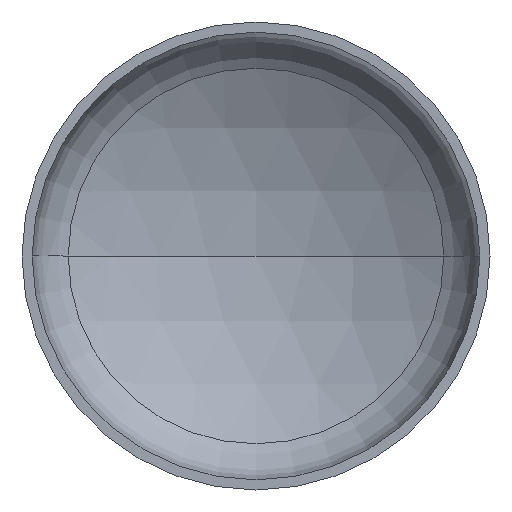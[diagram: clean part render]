
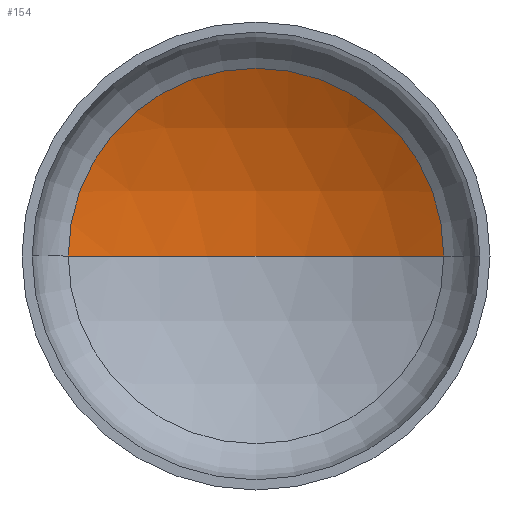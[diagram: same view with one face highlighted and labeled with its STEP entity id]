
A CAD part, front view. The second image highlights one B-rep face of the part: STEP entity #154.
In plain terms, the highlighted spherical face has radius 3600 mm.
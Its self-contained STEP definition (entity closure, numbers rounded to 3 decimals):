
#2 = ORIENTED_EDGE ( 'NONE', *, *, #353, .T. ) ;
#11 = AXIS2_PLACEMENT_3D ( 'NONE', #355, #229, #378 ) ;
#14 = AXIS2_PLACEMENT_3D ( 'NONE', #328, #199, #352 ) ;
#15 = AXIS2_PLACEMENT_3D ( 'NONE', #56, #288, #147 ) ;
#24 = VERTEX_POINT ( 'NONE', #188 ) ;
#28 = VERTEX_POINT ( 'NONE', #164 ) ;
#33 = DIRECTION ( 'NONE',  ( 0., 0., -1. ) ) ;
#43 = VERTEX_POINT ( 'NONE', #202 ) ;
#48 = ORIENTED_EDGE ( 'NONE', *, *, #341, .T. ) ;
#51 = AXIS2_PLACEMENT_3D ( 'NONE', #190, #33, #348 ) ;
#54 = ORIENTED_EDGE ( 'NONE', *, *, #342, .F. ) ;
#56 = CARTESIAN_POINT ( 'NONE',  ( 0., -2413.2, 0. ) ) ;
#58 = FACE_OUTER_BOUND ( 'NONE', #124, .T. ) ;
#124 = EDGE_LOOP ( 'NONE', ( #54, #48, #2 ) ) ;
#147 = DIRECTION ( 'NONE',  ( -1., 0., 0. ) ) ;
#154 = ADVANCED_FACE ( 'NONE', ( #58 ), #186, .F. ) ;
#164 = CARTESIAN_POINT ( 'NONE',  ( 0., 1186.8, 0. ) ) ;
#186 = SPHERICAL_SURFACE ( 'NONE', #51, 3600. ) ;
#188 = CARTESIAN_POINT ( 'NONE',  ( -1805.577, 701.265, 0. ) ) ;
#190 = CARTESIAN_POINT ( 'NONE',  ( 0., -2413.2, 0. ) ) ;
#199 = DIRECTION ( 'NONE',  ( 0., 0., 1. ) ) ;
#202 = CARTESIAN_POINT ( 'NONE',  ( 1805.577, 701.265, 0. ) ) ;
#220 = CIRCLE ( 'NONE', #14, 3600. ) ;
#229 = DIRECTION ( 'NONE',  ( 0., -1., 0. ) ) ;
#288 = DIRECTION ( 'NONE',  ( 0., 0., -1. ) ) ;
#328 = CARTESIAN_POINT ( 'NONE',  ( 0., -2413.2, 0. ) ) ;
#331 = CIRCLE ( 'NONE', #15, 3600. ) ;
#341 = EDGE_CURVE ( 'NONE', #28, #43, #331, .T. ) ;
#342 = EDGE_CURVE ( 'NONE', #28, #24, #220, .T. ) ;
#348 = DIRECTION ( 'NONE',  ( -1., 0., 0. ) ) ;
#352 = DIRECTION ( 'NONE',  ( 1., 0., 0. ) ) ;
#353 = EDGE_CURVE ( 'NONE', #43, #24, #391, .T. ) ;
#355 = CARTESIAN_POINT ( 'NONE',  ( 0., 701.265, 0. ) ) ;
#378 = DIRECTION ( 'NONE',  ( 1., 0., 0. ) ) ;
#391 = CIRCLE ( 'NONE', #11, 1805.577 ) ;
